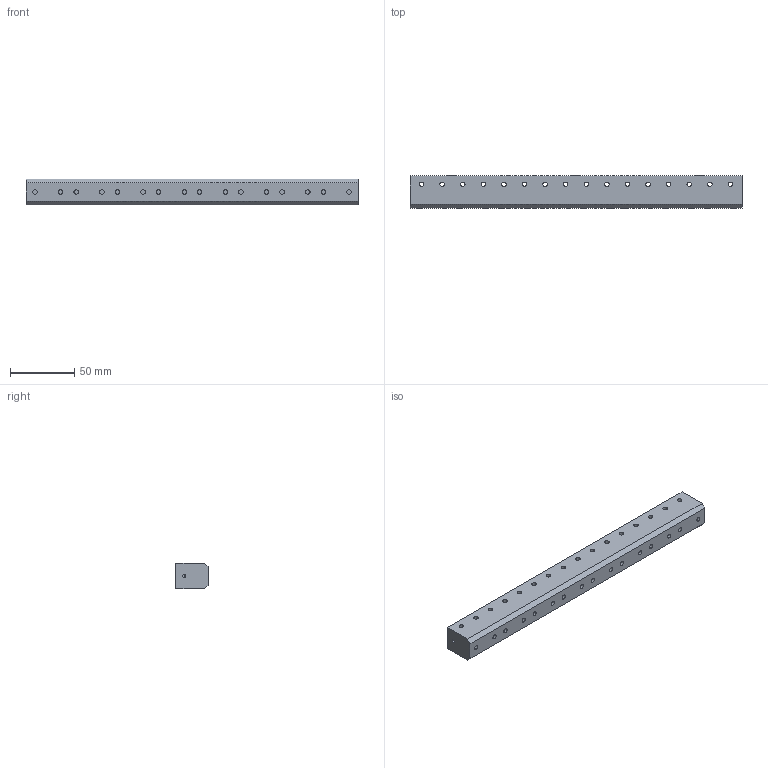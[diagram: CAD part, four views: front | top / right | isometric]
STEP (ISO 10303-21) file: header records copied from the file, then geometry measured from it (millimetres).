
FILE_DESCRIPTION (( 'STEP AP214' ), '1' );
FILE_NAME ('MC1000C Heat Block.STEP', '2017-10-06T00:45:42', ( 'Ian Hooper' ), ( '' ), 'SwSTEP 2.0', 'SolidWorks 2010', '' );
FILE_SCHEMA (( 'AUTOMOTIVE_DESIGN' ));
Length unit declared in the file: millimetre
Products named in the file (1): MC1000C Heat Block
Bounding box: 258 x 25 x 20 mm (x, y, z)
Volume: 120343.7 mm3; surface area: 29876.7 mm2
Topology: 1 solids, 1 shells, 105 faces, 247 edges, 162 vertices
Faces by surface type: cylinder 72, plane 27, cone 6
Entity records: 3225 total; most frequent: DIRECTION 605, CARTESIAN_POINT 557, ORIENTED_EDGE 494, AXIS2_PLACEMENT_3D 254, EDGE_CURVE 247, VERTEX_POINT 162, EDGE_LOOP 157, CIRCLE 148
